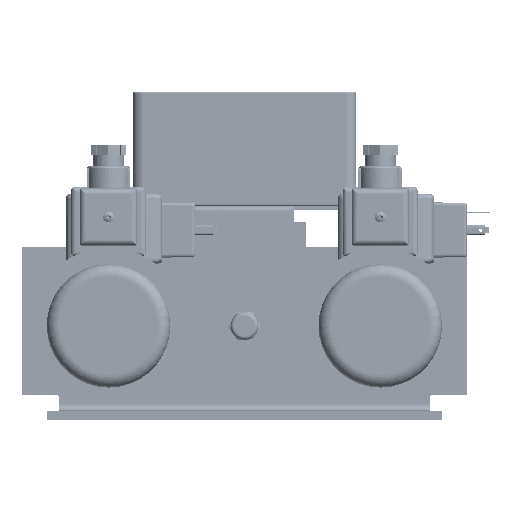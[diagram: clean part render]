
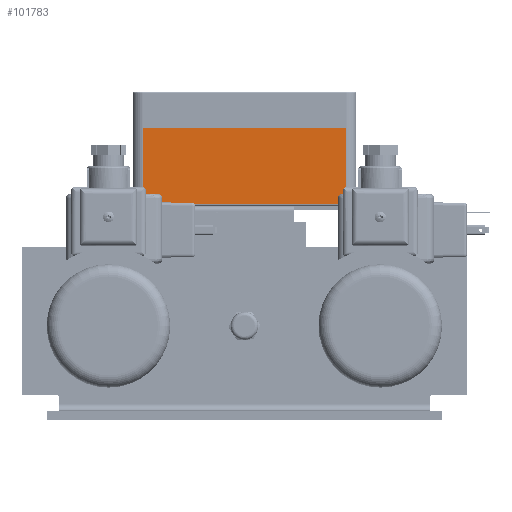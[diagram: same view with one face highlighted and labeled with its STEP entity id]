
A CAD part, front view. The second image highlights one B-rep face of the part: STEP entity #101783.
In plain terms, the highlighted planar face has unit normal (0, -1, 0).
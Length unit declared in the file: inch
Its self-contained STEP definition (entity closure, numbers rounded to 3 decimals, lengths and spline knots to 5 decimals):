
#20 = DIRECTION ( 'NONE',  ( 1., 0., 0. ) ) ;
#3367 = VERTEX_POINT ( 'NONE', #401651 ) ;
#5775 = CARTESIAN_POINT ( 'NONE',  ( -0.79325, -16.89876, 1.90412 ) ) ;
#27277 = EDGE_CURVE ( 'NONE', #153344, #196024, #318905, .T. ) ;
#58785 = VERTEX_POINT ( 'NONE', #226286 ) ;
#68575 = DIRECTION ( 'NONE',  ( 1., 0., 0. ) ) ;
#77851 = FACE_OUTER_BOUND ( 'NONE', #171244, .T. ) ;
#96525 = AXIS2_PLACEMENT_3D ( 'NONE', #99460, #357553, #394609 ) ;
#98623 = LINE ( 'NONE', #166989, #409640 ) ;
#99460 = CARTESIAN_POINT ( 'NONE',  ( -0.79325, -16.89876, 1.90412 ) ) ;
#99973 = CARTESIAN_POINT ( 'NONE',  ( 3.29725, -16.89876, 0.36812 ) ) ;
#101246 = EDGE_CURVE ( 'NONE', #58785, #3367, #98623, .T. ) ;
#101783 = ADVANCED_FACE ( 'NONE', ( #77851 ), #264934, .F. ) ;
#126143 = CARTESIAN_POINT ( 'NONE',  ( -0.79325, -16.89876, 1.90412 ) ) ;
#132995 = VECTOR ( 'NONE', #20, 39.37008 ) ;
#141114 = DIRECTION ( 'NONE',  ( 0., 0., -1. ) ) ;
#143656 = EDGE_CURVE ( 'NONE', #153344, #58785, #157666, .T. ) ;
#147376 = CARTESIAN_POINT ( 'NONE',  ( -0.79325, -16.89876, 0.36812 ) ) ;
#153344 = VERTEX_POINT ( 'NONE', #126143 ) ;
#157666 = LINE ( 'NONE', #5775, #300606 ) ;
#158419 = LINE ( 'NONE', #99973, #132995 ) ;
#166989 = CARTESIAN_POINT ( 'NONE',  ( 3.29725, -16.89876, 1.90412 ) ) ;
#171244 = EDGE_LOOP ( 'NONE', ( #421572, #193966, #271594, #199014 ) ) ;
#193966 = ORIENTED_EDGE ( 'NONE', *, *, #305867, .T. ) ;
#196024 = VERTEX_POINT ( 'NONE', #147376 ) ;
#199014 = ORIENTED_EDGE ( 'NONE', *, *, #143656, .F. ) ;
#226286 = CARTESIAN_POINT ( 'NONE',  ( 3.29725, -16.89876, 1.90412 ) ) ;
#232080 = VECTOR ( 'NONE', #141114, 39.37008 ) ;
#264934 = PLANE ( 'NONE',  #96525 ) ;
#271594 = ORIENTED_EDGE ( 'NONE', *, *, #101246, .F. ) ;
#300606 = VECTOR ( 'NONE', #68575, 39.37008 ) ;
#305867 = EDGE_CURVE ( 'NONE', #196024, #3367, #158419, .T. ) ;
#318905 = LINE ( 'NONE', #339339, #232080 ) ;
#339339 = CARTESIAN_POINT ( 'NONE',  ( -0.79325, -16.89876, 1.90412 ) ) ;
#357553 = DIRECTION ( 'NONE',  ( 0., 1., 0. ) ) ;
#394609 = DIRECTION ( 'NONE',  ( 0., 0., -1. ) ) ;
#401651 = CARTESIAN_POINT ( 'NONE',  ( 3.29725, -16.89876, 0.36812 ) ) ;
#404996 = DIRECTION ( 'NONE',  ( 0., 0., -1. ) ) ;
#409640 = VECTOR ( 'NONE', #404996, 39.37008 ) ;
#421572 = ORIENTED_EDGE ( 'NONE', *, *, #27277, .T. ) ;
